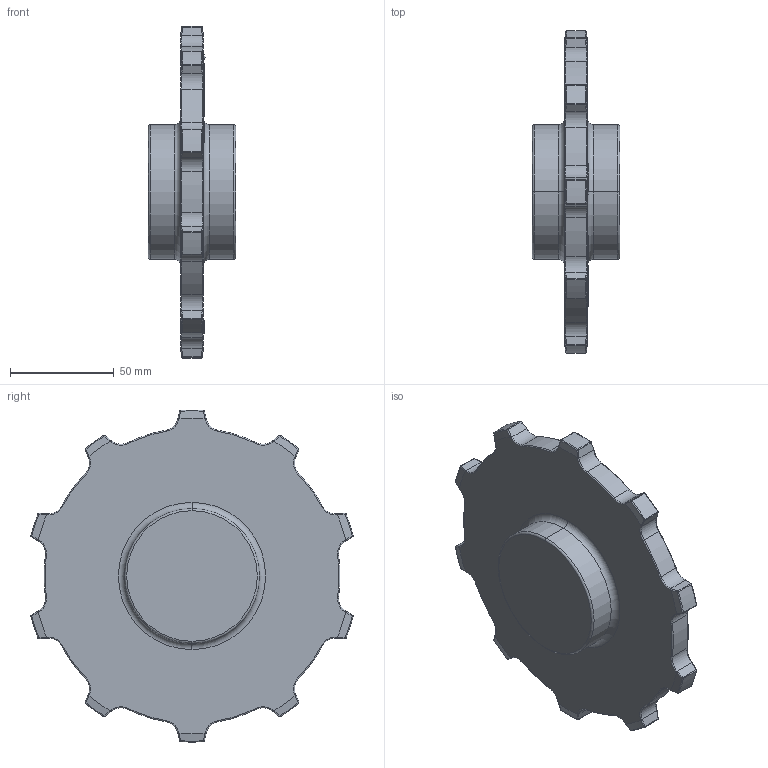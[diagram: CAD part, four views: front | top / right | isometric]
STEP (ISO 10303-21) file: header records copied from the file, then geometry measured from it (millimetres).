
FILE_DESCRIPTION((''),'2;1');
FILE_NAME('24Z10','2009-09-18T',('mth'),(''),'PRO/ENGINEER BY PARAMETRIC TECHNOLOGY CORPORATION, 2008490','PRO/ENGINEER BY PARAMETRIC TECHNOLOGY CORPORATION, 2008490','');
FILE_SCHEMA(('AUTOMOTIVE_DESIGN { 1 0 10303 214 1 1 1 1 }'));
Length unit declared in the file: millimetre
Products named in the file (1): 24Z10
Bounding box: 42.3 x 155.37 x 160.1 mm (x, y, z)
Volume: 294537 mm3; surface area: 46178.2 mm2
Topology: 1 solids, 1 shells, 895 faces, 2366 edges, 1507 vertices
Faces by surface type: plane 591, cylinder 114, torus 88, bspline 40, sphere 40, cone 22
Entity records: 28927 total; most frequent: CARTESIAN_POINT 6892, ORIENTED_EDGE 4728, DIRECTION 4340, EDGE_CURVE 2364, VECTOR 1778, LINE 1778, VERTEX_POINT 1507, AXIS2_PLACEMENT_3D 1281
